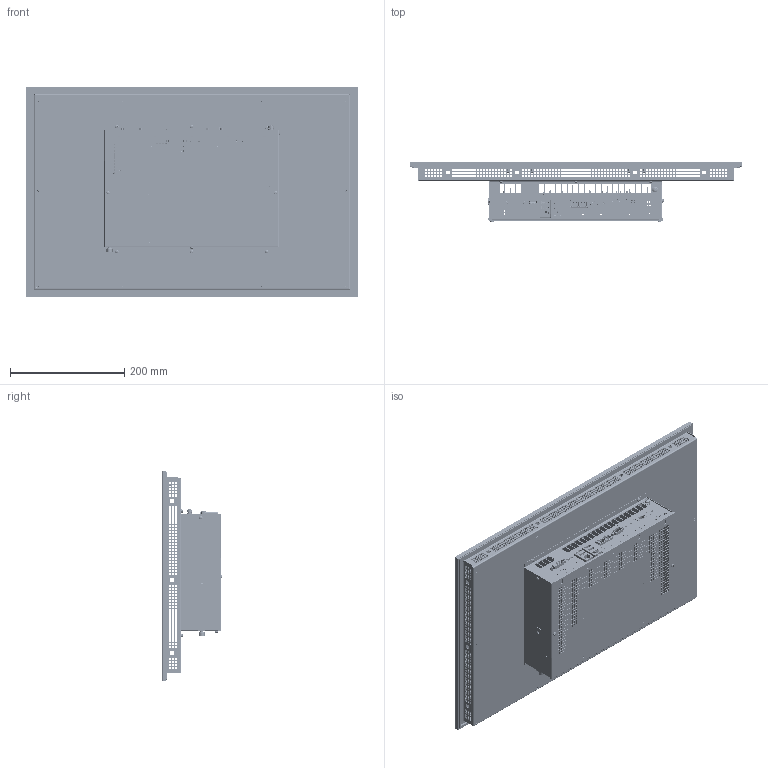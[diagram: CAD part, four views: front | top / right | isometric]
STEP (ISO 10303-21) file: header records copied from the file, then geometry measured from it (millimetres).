
FILE_DESCRIPTION (( 'STEP AP214' ), '1' );
FILE_NAME ('C6P34-Panel_215W_Cap_S0.STEP', '2019-09-20T13:33:19', ( '' ), ( '' ), 'SwSTEP 2.0', 'SolidWorks 2018', '' );
FILE_SCHEMA (( 'AUTOMOTIVE_DESIGN' ));
Length unit declared in the file: millimetre
Products named in the file (150): 7359_056; 65720030; 57902481; 69111028; 23330039; 21614000; 21410052; 57936014; 65720029; 21509026; 59302440; 51524089; D02201701; 21404036; 21410056; 52536147_Default<A macchina>; 21408088; D02201702; 21405029; 51702303_Default<A macchina>; 51702303; 65720078; 57936013; 66320015; piazzuola_de800_di370; 55600004; 55455085; 21410046; 58502113; 59702265_Default<A macchina>; 66320016; C6P34-Panel_215W_Cap_S0; 62920002; 66320001; 58702102_Default<A macchina>; 7397_227; 14300025; 59302440_Default<A macchina>; 56636590_Default<A macchina>; 58702102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
Assembly tree (108 placements, depth 4):
  7359_056
  65720030
  69111028
  21614000
  65720029
Bounding box: 581.5 x 105.49 x 367.5 mm (x, y, z)
Volume: 1926705.3 mm3; surface area: 2259125.3 mm2
Topology: 226 solids, 244 shells, 28588 faces, 80756 edges, 53067 vertices
Faces by surface type: plane 22315, cylinder 4695, cone 751, bspline 715, torus 92, sphere 20
Full cylindrical faces by diameter (mm): 0.3 x9, 0.434 x1, 0.6 x30, 0.65 x6, 0.7 x165, 0.8 x36, 0.85 x66, 0.9 x175, 0.95 x11, 1 x119, 1.1 x3, 1.2 x10, 1.32 x2, 1.35 x4, 1.4 x8, 1.5 x6, 1.6 x7, 1.7 x4, 1.8 x3, 1.9 x4, 1.95 x4, 2.05 x1, 2.3 x18, 2.4 x9, 2.5 x38, 2.6 x5, 2.8 x3, 2.874 x1, 3 x82, 3.15 x2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
Entity records: 859345 total; most frequent: CARTESIAN_POINT 178055, ORIENTED_EDGE 140956, DIRECTION 125517, EDGE_CURVE 70868, VECTOR 59327, LINE 59327, VERTEX_POINT 47338, AXIS2_PLACEMENT_3D 33095
